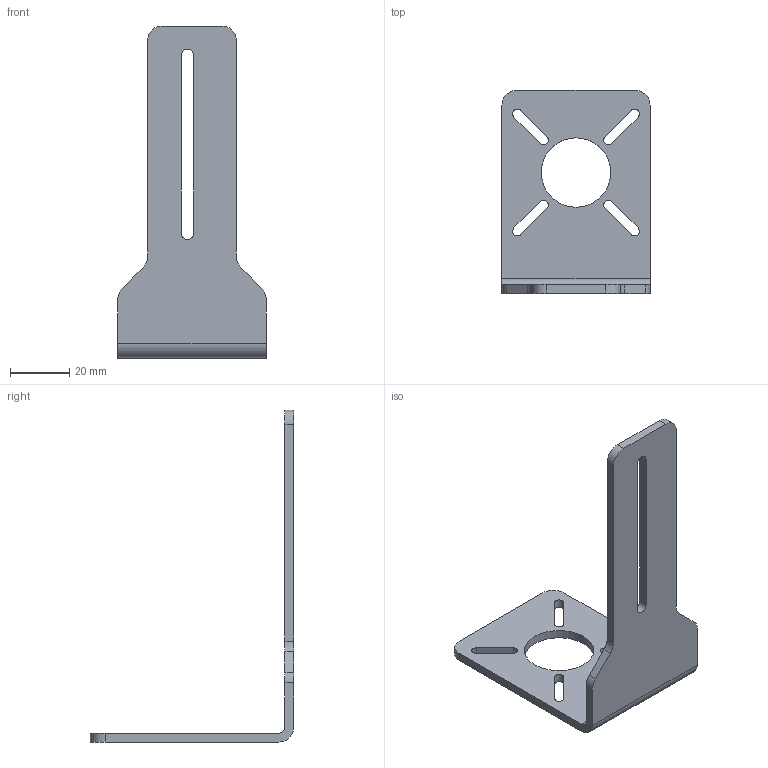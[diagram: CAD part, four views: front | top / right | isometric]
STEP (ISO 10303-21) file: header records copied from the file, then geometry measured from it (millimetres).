
FILE_DESCRIPTION(/* description */ (''),/* implementation_level */ '2;1');
FILE_NAME(/* name */ 'C:\#Vault-WorkDir\Konstruktions-Dokumente\Projekte\FA45\153-00721_MA LR-23_112 FA 45 Haltewinkel Beleuchtung.stp',/* time_stamp */ '2018-05-02T08:37:16+02:00',/* author */ ('SensoPart'),/* organization */ ('SensoPart'),/* preprocessor_version */ 'ST-DEVELOPER v17',/* originating_system */ 'Autodesk Inventor 2018',/* authorisation */ '');
FILE_SCHEMA (('AUTOMOTIVE_DESIGN { 1 0 10303 214 3 1 1 }'));
Length unit declared in the file: millimetre
Products named in the file (1): 04113226 TEIL1
Bounding box: 50 x 68.6 x 112 mm (x, y, z)
Volume: 18586.1 mm3; surface area: 14724.6 mm2
Topology: 1 solids, 1 shells, 43 faces, 123 edges, 82 vertices
Faces by surface type: plane 22, cylinder 21
Full cylindrical faces by diameter (mm): 23.4 x1
Entity records: 1482 total; most frequent: DIRECTION 253, CARTESIAN_POINT 249, ORIENTED_EDGE 246, EDGE_CURVE 123, AXIS2_PLACEMENT_3D 86, VERTEX_POINT 82, LINE 81, VECTOR 81
